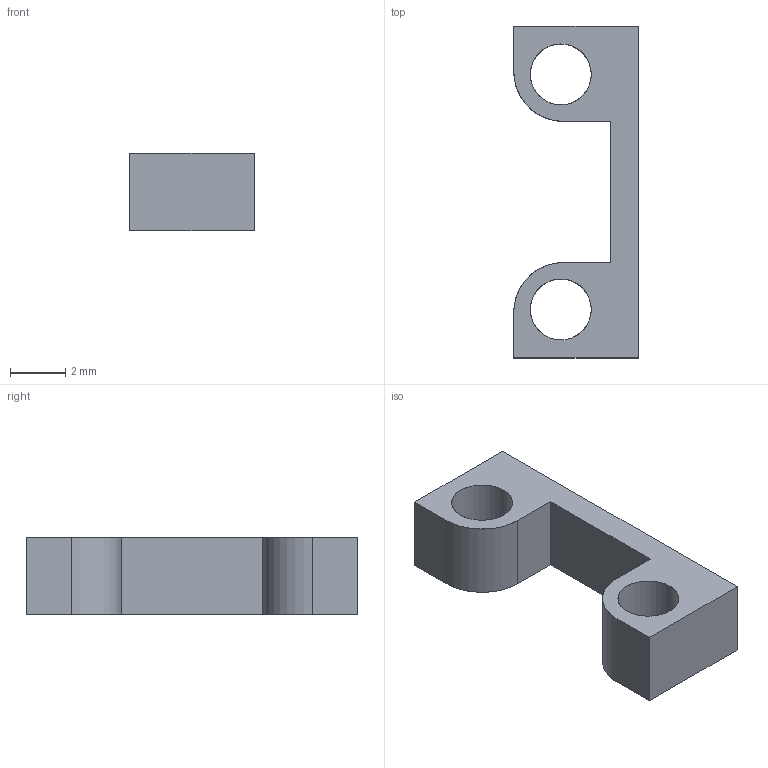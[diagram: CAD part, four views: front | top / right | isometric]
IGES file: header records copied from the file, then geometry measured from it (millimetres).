
Start section: SolidWorks IGES file using analytic representation for surfaces
Global section: file name: C:\catalog\ms-exz-4.IGS; native system: SolidWorks 2010; preprocessor: SolidWorks 2010; author: hi1633; date: 150421.130627; units: millimetre
Bounding box: 4.5 x 12 x 2.8 mm (x, y, z)
Surface area: 200.7 mm2 (no closed solid volume)
Topology: 0 solids, 0 shells, 16 faces, 232 edges, 232 vertices
Faces by surface type: bspline 10, revolution 6
